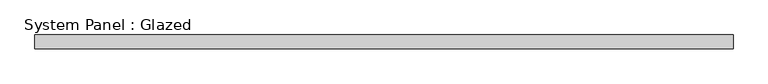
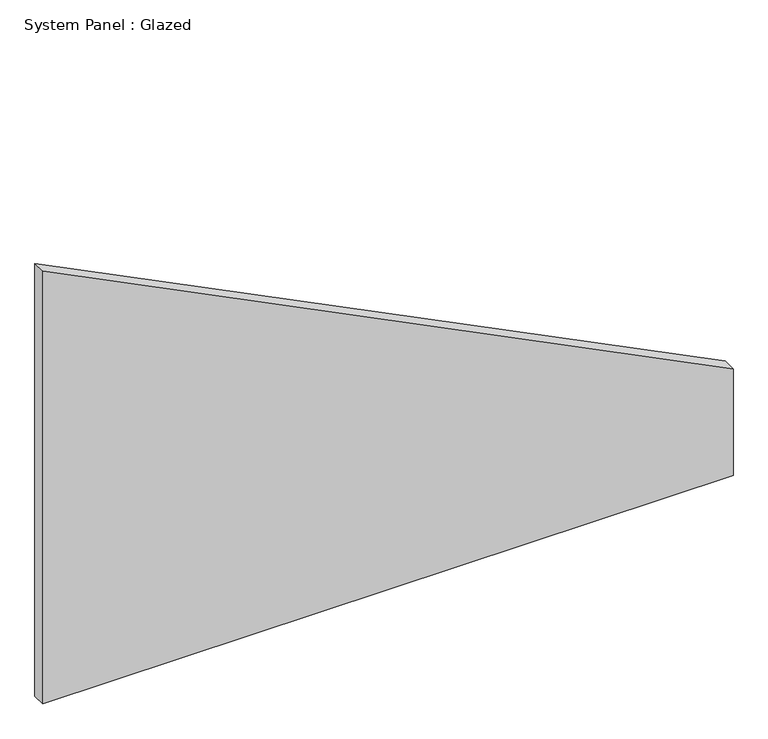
"""IFC4 building model written with IfcOpenShell, lengths in millimetres: plate geometry, System Panel : Glazed."""

from ifc_helpers import new_model, si_unit, frame, origin, place, context, project, spatial, polyline, outline, extrude, source, transform, mapped, element, save


def system_panel_glazed_35b7c7d0(model_context):
    return source(origin(), model_context, "Body", "SweptSolid", [
        extrude(outline(polyline([(0.0, -641.35), (0.0, 641.35), (209.4960429, 641.35), (850.8460429, -641.35), (0.0, -641.35)])), frame((0.0, 19.05, 0.0), z_axis=(0.0, 1.0, 0.0), x_axis=(0.0, 0.0, 1.0)), (0.0, 0.0, 1.0), 25.4),
    ])


if __name__ == "__main__":
    model = new_model("IFC4")
    model_context = context("Model", 3, world=origin())
    ifc_project = project(units=[si_unit("LENGTHUNIT", "METRE", prefix="MILLI")], contexts=[model_context])
    site = spatial("IfcSite", under=ifc_project)
    building = spatial("IfcBuilding", under=site)
    placement = place(None, origin())
    system_panel_glazed_shape = system_panel_glazed_35b7c7d0(model_context)
    element("IfcPlate", 1, ObjectType="System Panel : Glazed", at=placement, inside=building, context=model_context, shape_type="MappedRepresentation", body=[
        mapped(system_panel_glazed_shape, transform((0.0, 0.0, 0.0), x_axis=(1.0, 0.0, 0.0), y_axis=(0.0, 1.0, 0.0), z_axis=(0.0, 0.0, 1.0))),
    ])
    save(model, "model.ifc")
